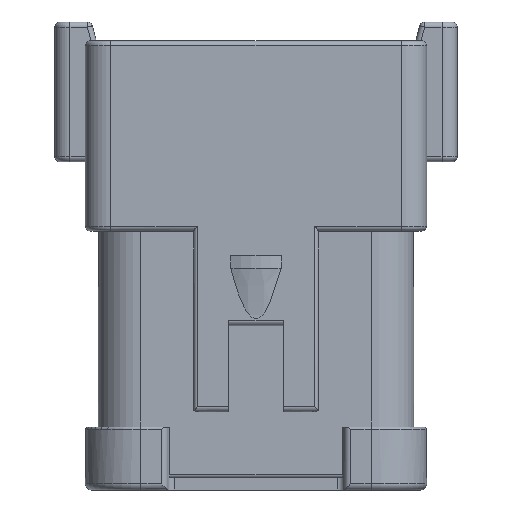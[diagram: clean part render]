
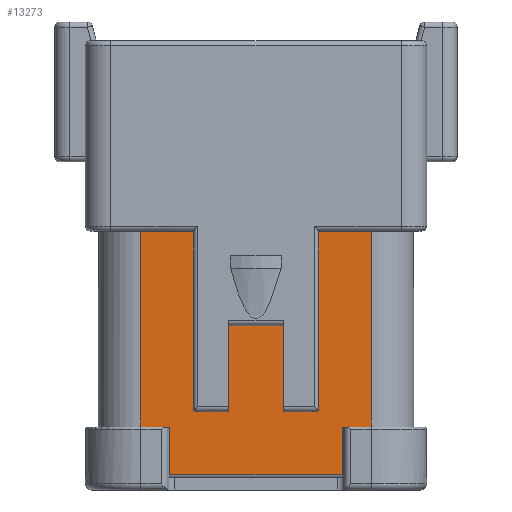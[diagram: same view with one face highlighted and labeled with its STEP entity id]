
A CAD part, front view. The second image highlights one B-rep face of the part: STEP entity #13273.
In plain terms, the highlighted planar face has unit normal (0, -1, 0).
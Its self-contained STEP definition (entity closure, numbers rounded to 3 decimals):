
#1779=DIRECTION('',(1.,0.,0.));
#1780=VECTOR('',#1779,6.604);
#1781=CARTESIAN_POINT('',(-11.621,-9.093,-19.177));
#1782=LINE('',#1781,#1780);
#1815=DIRECTION('',(1.,0.,0.));
#1816=VECTOR('',#1815,6.604);
#1817=CARTESIAN_POINT('',(5.017,-9.093,-19.177));
#1818=LINE('',#1817,#1816);
#2033=DIRECTION('',(0.,0.,1.));
#2034=VECTOR('',#2033,8.687);
#2035=CARTESIAN_POINT('',(2.731,-9.093,-37.414));
#2036=LINE('',#2035,#2034);
#2042=DIRECTION('',(1.,0.,0.));
#2043=VECTOR('',#2042,2.925);
#2044=CARTESIAN_POINT('',(-11.621,-9.093,-38.938));
#2045=LINE('',#2044,#2043);
#2046=DIRECTION('',(0.,0.,-1.));
#2047=VECTOR('',#2046,19.761);
#2048=CARTESIAN_POINT('',(-11.621,-9.093,-19.177));
#2049=LINE('',#2048,#2047);
#2050=DIRECTION('',(0.,0.,-1.));
#2051=VECTOR('',#2050,18.237);
#2052=CARTESIAN_POINT('',(-5.017,-9.093,-19.177));
#2053=LINE('',#2052,#2051);
#2054=DIRECTION('',(1.,0.,0.));
#2055=VECTOR('',#2054,2.286);
#2056=CARTESIAN_POINT('',(-5.017,-9.093,-37.414));
#2057=LINE('',#2056,#2055);
#2058=DIRECTION('',(1.,0.,0.));
#2059=VECTOR('',#2058,2.286);
#2060=CARTESIAN_POINT('',(2.731,-9.093,-37.414));
#2061=LINE('',#2060,#2059);
#2062=DIRECTION('',(0.,0.,-1.));
#2063=VECTOR('',#2062,18.237);
#2064=CARTESIAN_POINT('',(5.017,-9.093,-19.177));
#2065=LINE('',#2064,#2063);
#2066=DIRECTION('',(1.,0.,0.));
#2067=VECTOR('',#2066,2.925);
#2068=CARTESIAN_POINT('',(8.696,-9.093,-38.938));
#2069=LINE('',#2068,#2067);
#2070=DIRECTION('',(0.,0.,1.));
#2071=VECTOR('',#2070,4.826);
#2072=CARTESIAN_POINT('',(8.696,-9.093,-43.764));
#2073=LINE('',#2072,#2071);
#2074=DIRECTION('',(-1.,0.,0.));
#2075=VECTOR('',#2074,17.391);
#2076=CARTESIAN_POINT('',(8.696,-9.093,-43.764));
#2077=LINE('',#2076,#2075);
#2078=DIRECTION('',(0.,0.,1.));
#2079=VECTOR('',#2078,4.826);
#2080=CARTESIAN_POINT('',(-8.696,-9.093,-43.764));
#2081=LINE('',#2080,#2079);
#5256=DIRECTION('',(0.,0.,-1.));
#5257=VECTOR('',#5256,19.761);
#5258=CARTESIAN_POINT('',(11.621,-9.093,-19.177));
#5259=LINE('',#5258,#5257);
#6654=DIRECTION('',(0.,0.,1.));
#6655=VECTOR('',#6654,8.687);
#6656=CARTESIAN_POINT('',(-2.731,-9.093,-37.414));
#6657=LINE('',#6656,#6655);
#6671=DIRECTION('',(1.,0.,0.));
#6672=VECTOR('',#6671,5.461);
#6673=CARTESIAN_POINT('',(-2.731,-9.093,-28.727));
#6674=LINE('',#6673,#6672);
#9581=CARTESIAN_POINT('',(-11.621,-9.093,-19.177));
#9582=VERTEX_POINT('',#9581);
#9583=CARTESIAN_POINT('',(11.621,-9.093,-19.177));
#9585=VERTEX_POINT('',#9583);
#9635=CARTESIAN_POINT('',(5.017,-9.093,-19.177));
#9637=VERTEX_POINT('',#9635);
#9640=CARTESIAN_POINT('',(-5.017,-9.093,-19.177));
#9642=VERTEX_POINT('',#9640);
#9651=CARTESIAN_POINT('',(-5.017,-9.093,-37.414));
#9652=CARTESIAN_POINT('',(-2.731,-9.093,-37.414));
#9653=VERTEX_POINT('',#9651);
#9654=VERTEX_POINT('',#9652);
#9655=CARTESIAN_POINT('',(2.731,-9.093,-37.414));
#9656=CARTESIAN_POINT('',(5.017,-9.093,-37.414));
#9657=VERTEX_POINT('',#9655);
#9658=VERTEX_POINT('',#9656);
#9659=CARTESIAN_POINT('',(-2.731,-9.093,-28.727));
#9660=VERTEX_POINT('',#9659);
#9661=CARTESIAN_POINT('',(2.731,-9.093,-28.727));
#9662=VERTEX_POINT('',#9661);
#10868=CARTESIAN_POINT('',(-11.621,-9.093,-38.938));
#10870=VERTEX_POINT('',#10868);
#10871=CARTESIAN_POINT('',(11.621,-9.093,-38.938));
#10873=VERTEX_POINT('',#10871);
#10879=CARTESIAN_POINT('',(-8.696,-9.093,-38.938));
#10880=VERTEX_POINT('',#10879);
#10881=CARTESIAN_POINT('',(8.696,-9.093,-38.938));
#10882=VERTEX_POINT('',#10881);
#10883=CARTESIAN_POINT('',(8.696,-9.093,-43.764));
#10884=VERTEX_POINT('',#10883);
#10885=CARTESIAN_POINT('',(-8.696,-9.093,-43.764));
#10886=VERTEX_POINT('',#10885);
#13240=CARTESIAN_POINT('',(-11.621,-9.093,-19.177));
#13241=DIRECTION('',(0.,-1.,0.));
#13242=DIRECTION('',(1.,0.,0.));
#13243=AXIS2_PLACEMENT_3D('',#13240,#13241,#13242);
#13244=PLANE('',#13243);
#13246=ORIENTED_EDGE('',*,*,#13245,.F.);
#13248=ORIENTED_EDGE('',*,*,#13247,.F.);
#13249=ORIENTED_EDGE('',*,*,#13075,.T.);
#13251=ORIENTED_EDGE('',*,*,#13250,.T.);
#13252=ORIENTED_EDGE('',*,*,#13200,.T.);
#13254=ORIENTED_EDGE('',*,*,#13253,.T.);
#13256=ORIENTED_EDGE('',*,*,#13255,.T.);
#13257=ORIENTED_EDGE('',*,*,#13231,.F.);
#13258=ORIENTED_EDGE('',*,*,#13184,.T.);
#13259=ORIENTED_EDGE('',*,*,#13170,.F.);
#13260=ORIENTED_EDGE('',*,*,#13091,.T.);
#13262=ORIENTED_EDGE('',*,*,#13261,.T.);
#13264=ORIENTED_EDGE('',*,*,#13263,.F.);
#13266=ORIENTED_EDGE('',*,*,#13265,.F.);
#13268=ORIENTED_EDGE('',*,*,#13267,.T.);
#13270=ORIENTED_EDGE('',*,*,#13269,.T.);
#13271=EDGE_LOOP('',(#13246,#13248,#13249,#13251,#13252,#13254,#13256,#13257,
#13258,#13259,#13260,#13262,#13264,#13266,#13268,#13270));
#13272=FACE_OUTER_BOUND('',#13271,.F.);
#13273=ADVANCED_FACE('',(#13272),#13244,.T.);
#13075=EDGE_CURVE('',#9582,#9642,#1782,.T.);
#13091=EDGE_CURVE('',#9637,#9585,#1818,.T.);
#13170=EDGE_CURVE('',#9637,#9658,#2065,.T.);
#13184=EDGE_CURVE('',#9657,#9658,#2061,.T.);
#13200=EDGE_CURVE('',#9653,#9654,#2057,.T.);
#13231=EDGE_CURVE('',#9657,#9662,#2036,.T.);
#13245=EDGE_CURVE('',#10870,#10880,#2045,.T.);
#13247=EDGE_CURVE('',#9582,#10870,#2049,.T.);
#13250=EDGE_CURVE('',#9642,#9653,#2053,.T.);
#13253=EDGE_CURVE('',#9654,#9660,#6657,.T.);
#13255=EDGE_CURVE('',#9660,#9662,#6674,.T.);
#13261=EDGE_CURVE('',#9585,#10873,#5259,.T.);
#13263=EDGE_CURVE('',#10882,#10873,#2069,.T.);
#13265=EDGE_CURVE('',#10884,#10882,#2073,.T.);
#13267=EDGE_CURVE('',#10884,#10886,#2077,.T.);
#13269=EDGE_CURVE('',#10886,#10880,#2081,.T.);
